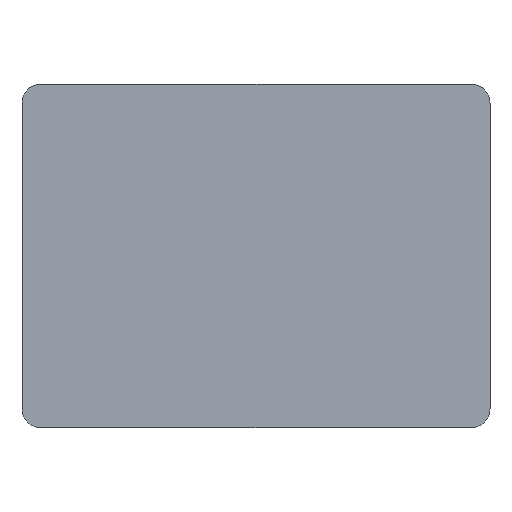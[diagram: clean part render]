
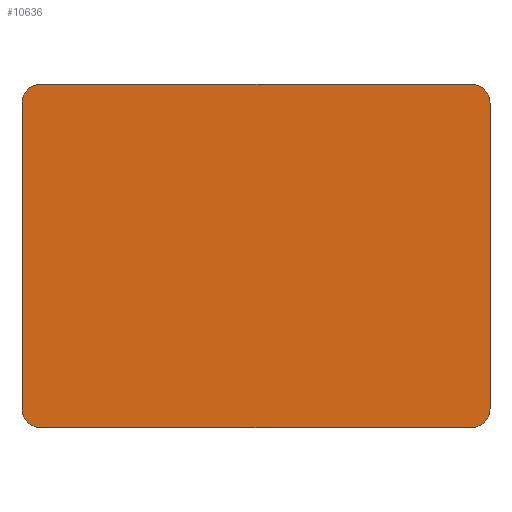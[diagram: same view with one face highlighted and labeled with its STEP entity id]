
A CAD part, left-side view. The second image highlights one B-rep face of the part: STEP entity #10636.
In plain terms, the highlighted planar face has unit normal (-1, 0, 0).
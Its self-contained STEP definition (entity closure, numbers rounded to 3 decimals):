
#1396=PLANE('',#10925);
#1952=FACE_OUTER_BOUND('',#2580,.T.);
#2580=EDGE_LOOP('',(#9849,#9850,#9851,#9852,#9853,#9854,#9855,#9856));
#3351=LINE('',#21599,#4118);
#3356=LINE('',#21625,#4123);
#3365=LINE('',#21668,#4132);
#3368=LINE('',#21677,#4135);
#4118=VECTOR('',#12079,10.);
#4123=VECTOR('',#12114,10.);
#4132=VECTOR('',#12165,10.);
#4135=VECTOR('',#12174,10.);
#4201=CIRCLE('',#10923,3.);
#4202=CIRCLE('',#10926,3.);
#4203=CIRCLE('',#10927,3.);
#4204=CIRCLE('',#10928,3.);
#5224=VERTEX_POINT('',#21593);
#5226=VERTEX_POINT('',#21597);
#5230=VERTEX_POINT('',#21619);
#5232=VERTEX_POINT('',#21623);
#5244=VERTEX_POINT('',#21663);
#5245=VERTEX_POINT('',#21667);
#5247=VERTEX_POINT('',#21674);
#5248=VERTEX_POINT('',#21676);
#6765=EDGE_CURVE('',#5226,#5224,#3351,.T.);
#6772=EDGE_CURVE('',#5232,#5230,#3356,.T.);
#6791=EDGE_CURVE('',#5230,#5244,#4201,.T.);
#6793=EDGE_CURVE('',#5244,#5245,#3365,.T.);
#6796=EDGE_CURVE('',#5224,#5232,#4202,.T.);
#6797=EDGE_CURVE('',#5247,#5226,#4203,.T.);
#6798=EDGE_CURVE('',#5248,#5247,#3368,.T.);
#6799=EDGE_CURVE('',#5245,#5248,#4204,.T.);
#9849=ORIENTED_EDGE('',*,*,#6791,.F.);
#9850=ORIENTED_EDGE('',*,*,#6772,.F.);
#9851=ORIENTED_EDGE('',*,*,#6796,.F.);
#9852=ORIENTED_EDGE('',*,*,#6765,.F.);
#9853=ORIENTED_EDGE('',*,*,#6797,.F.);
#9854=ORIENTED_EDGE('',*,*,#6798,.F.);
#9855=ORIENTED_EDGE('',*,*,#6799,.F.);
#9856=ORIENTED_EDGE('',*,*,#6793,.F.);
#10636=ADVANCED_FACE('',(#1952),#1396,.F.);
#10923=AXIS2_PLACEMENT_3D('',#21664,#12160,#12161);
#10925=AXIS2_PLACEMENT_3D('',#21672,#12168,#12169);
#10926=AXIS2_PLACEMENT_3D('',#21673,#12170,#12171);
#10927=AXIS2_PLACEMENT_3D('',#21675,#12172,#12173);
#10928=AXIS2_PLACEMENT_3D('',#21678,#12175,#12176);
#12079=DIRECTION('',(0.,0.,-1.));
#12114=DIRECTION('',(0.,1.,0.));
#12160=DIRECTION('center_axis',(1.,0.,0.));
#12161=DIRECTION('ref_axis',(0.,0.707,-0.707));
#12165=DIRECTION('',(0.,0.,1.));
#12168=DIRECTION('center_axis',(1.,0.,0.));
#12169=DIRECTION('ref_axis',(0.,1.,0.));
#12170=DIRECTION('center_axis',(1.,0.,0.));
#12171=DIRECTION('ref_axis',(0.,-0.707,-0.707));
#12172=DIRECTION('center_axis',(1.,0.,0.));
#12173=DIRECTION('ref_axis',(0.,-0.707,0.707));
#12174=DIRECTION('',(0.,-1.,0.));
#12175=DIRECTION('center_axis',(1.,0.,0.));
#12176=DIRECTION('ref_axis',(0.,0.707,0.707));
#21593=CARTESIAN_POINT('',(0.,0.,3.));
#21597=CARTESIAN_POINT('',(0.,0.,52.));
#21599=CARTESIAN_POINT('',(0.,0.,55.));
#21619=CARTESIAN_POINT('',(0.,72.,0.));
#21623=CARTESIAN_POINT('',(0.,3.,0.));
#21625=CARTESIAN_POINT('',(0.,0.,0.));
#21663=CARTESIAN_POINT('',(0.,75.,3.));
#21664=CARTESIAN_POINT('Origin',(0.,72.,3.));
#21667=CARTESIAN_POINT('',(0.,75.,52.));
#21668=CARTESIAN_POINT('',(0.,75.,0.));
#21672=CARTESIAN_POINT('Origin',(0.,37.5,27.5));
#21673=CARTESIAN_POINT('Origin',(0.,3.,3.));
#21674=CARTESIAN_POINT('',(0.,3.,55.));
#21675=CARTESIAN_POINT('Origin',(0.,3.,52.));
#21676=CARTESIAN_POINT('',(0.,72.,55.));
#21677=CARTESIAN_POINT('',(0.,75.,55.));
#21678=CARTESIAN_POINT('Origin',(0.,72.,52.));
